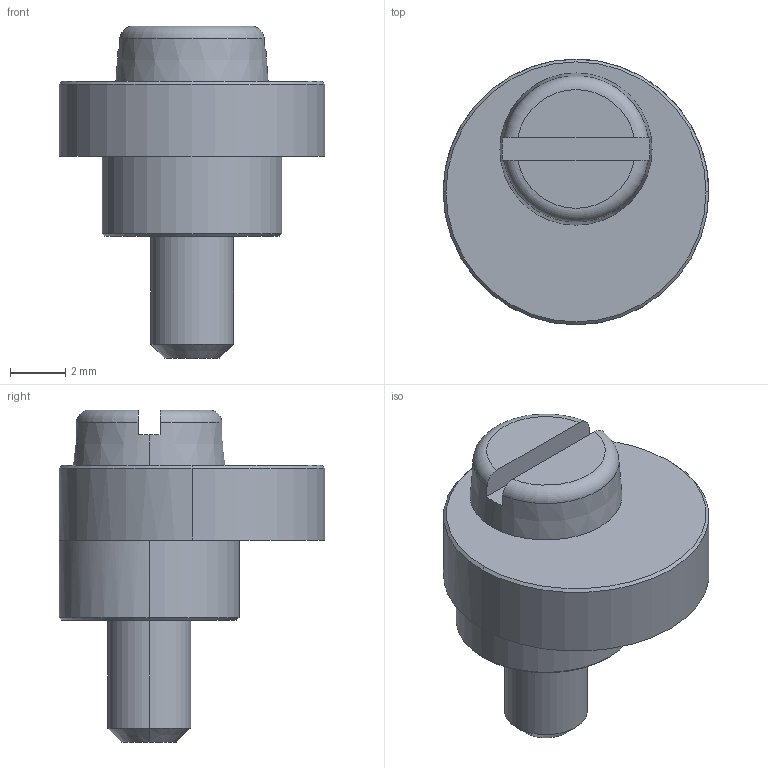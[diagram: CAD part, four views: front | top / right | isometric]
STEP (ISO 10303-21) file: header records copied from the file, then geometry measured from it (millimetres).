
FILE_DESCRIPTION (( 'STEP AP214' ), '1' );
FILE_NAME ('139697Set_8.0010.4100.0000_Befestigungsexzenter.STEP', '2018-03-01T14:22:40', ( '' ), ( '' ), 'SwSTEP 2.0', 'SolidWorks 2017', '' );
FILE_SCHEMA (( 'AUTOMOTIVE_DESIGN' ));
Length unit declared in the file: millimetre
Products named in the file (3): 139697_8.0000.4100.0000~4; 139697Set_8.0010.4100.0000_Befestigungsexzenter; N630098_Schraube_DIN84_M3x10,vern.,~0
Assembly tree (2 placements, depth 2):
  139697Set_8.0010.4100.0000_Befestigungsexzenter
    139697_8.0000.4100.0000~4
    N630098_Schraube_DIN84_M3x10,vern.,~0
Bounding box: 9.6 x 9.6 x 12 mm (x, y, z)
Volume: 355.8 mm3; surface area: 494.5 mm2
Topology: 2 solids, 2 shells, 32 faces, 70 edges, 43 vertices
Faces by surface type: cone 12, plane 10, cylinder 8, torus 2
Entity records: 1026 total; most frequent: CARTESIAN_POINT 194, DIRECTION 174, ORIENTED_EDGE 140, AXIS2_PLACEMENT_3D 75, EDGE_CURVE 70, VERTEX_POINT 43, CIRCLE 38, EDGE_LOOP 35
